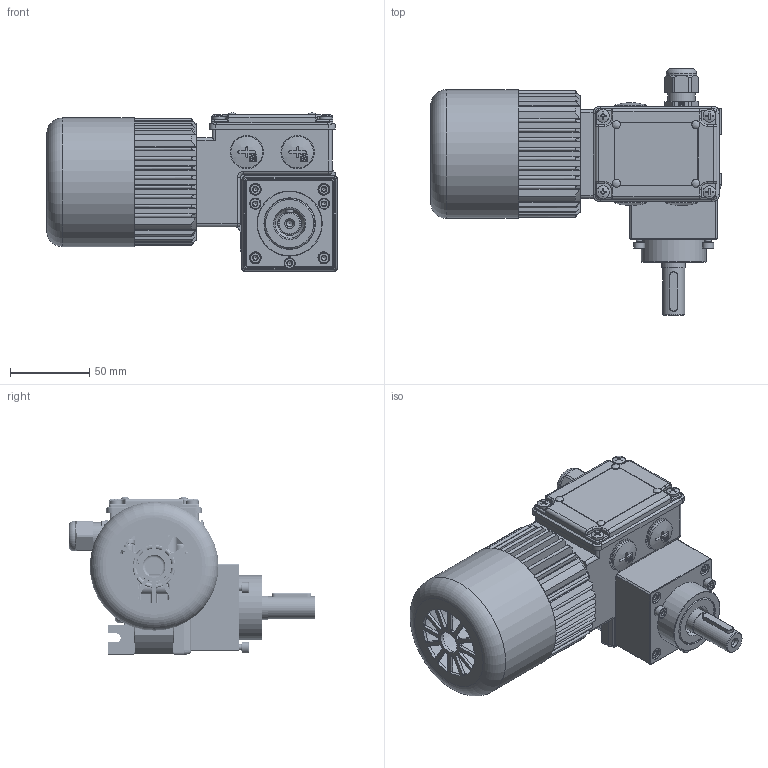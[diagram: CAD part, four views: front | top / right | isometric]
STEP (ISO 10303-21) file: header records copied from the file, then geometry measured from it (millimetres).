
FILE_DESCRIPTION(/* description */ (''),/* implementation_level */ '2;1');
FILE_NAME(/* name */ 'C:\Users\giuseppe.caruso.MINIMOTOR\Desktop\MODELLI STP\WEB\MCCE...MP B3S.stp',/* time_stamp */ '2014-07-10T11:26:12+02:00',/* author */ ('giuseppe.caruso'),/* organization */ (''),/* preprocessor_version */ 'ST-DEVELOPER v15.6',/* originating_system */ 'Autodesk Inventor 2015',/* authorisation */ '');
FILE_SCHEMA (('AUTOMOTIVE_DESIGN { 1 0 10303 214 3 1 1 }'));
Length unit declared in the file: millimetre
Products named in the file (43): CRT001-1; CRT001-2; CRT001-3; CRT001-4; CRT001-5; CRT001-6; CRT001; VCE435; VCE410; RND020; RND014; VSE616; OR021; SPN018; RST004; VTC406; RIV014I; VTC410S; TPP001; BOC001; ALR050; CRN002; ING275; CPR060; SRD061; RAD052; GRN035; CPV050; CPM005A; TRG001; TPP009; STT020; CPR070; ING303; CHI003; SRD014; ALR063; CRT002; CHI005; RDE001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
Bounding box: 182.9 x 155.3 x 99.77 mm (x, y, z)
Volume: 397566.5 mm3; surface area: 261195.9 mm2
Topology: 63 solids, 65 shells, 4639 faces, 12789 edges, 8371 vertices
Faces by surface type: plane 2346, cylinder 1759, cone 315, torus 150, sphere 46, bspline 23
Full cylindrical faces by diameter (mm): 1.6 x2, 2.6 x4, 2.7 x8, 3.242 x24, 3.4 x4, 3.8 x4, 4 x24, 4.134 x3, 4.25 x3, 4.3 x1, 4.5 x19, 4.917 x1, 5 x4, 5.1 x4, 6 x5, 6.561 x1, 7 x14, 7.25 x3, 7.5 x7, 7.6 x1, 8 x7, 10 x1, 11 x4, 11.57 x1, 14 x2, 14.3 x1, 14.376 x4, 14.38 x1, 15 x3, 16 x5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
Entity records: 137372 total; most frequent: CARTESIAN_POINT 34877, ORIENTED_EDGE 21860, DIRECTION 19872, EDGE_CURVE 10926, VERTEX_POINT 7356, AXIS2_PLACEMENT_3D 6894, LINE 6084, VECTOR 6084
